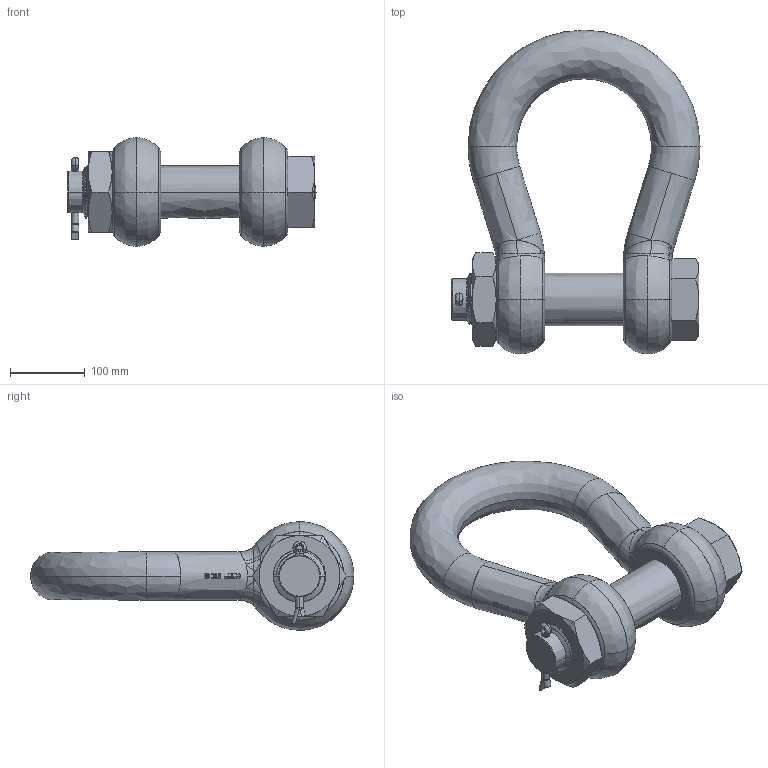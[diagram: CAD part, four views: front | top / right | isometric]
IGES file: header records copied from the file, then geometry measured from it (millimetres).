
Start section: START RECORD GO HERE.
Global section: file name: POGHMB65.igs; native system: Solidworks 2009                             ; preprocessor: Solidworks                 ; author: v.b.; organization: P4; date: 20090826.095508; units: millimetre
Bounding box: 331.5 x 432.5 x 145 mm (x, y, z)
Surface area: 386093.1 mm2 (no closed solid volume)
Topology: 0 solids, 0 shells, 867 faces, 6181 edges, 6173 vertices
Faces by surface type: bspline 396, plane 291, revolution 180
